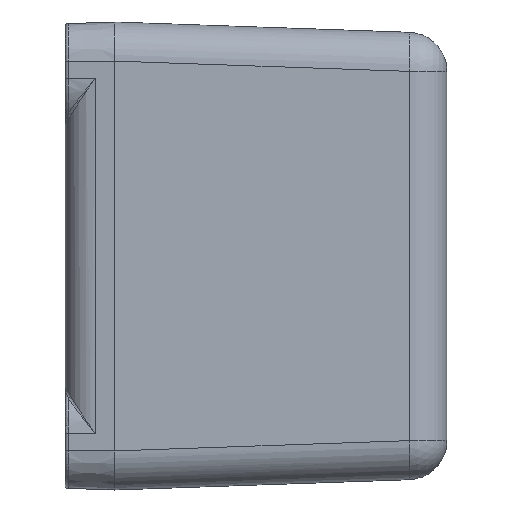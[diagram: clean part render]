
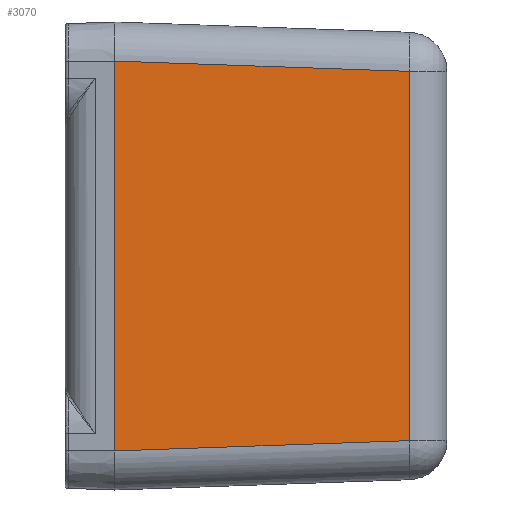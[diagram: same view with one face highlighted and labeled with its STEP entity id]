
A CAD part, left-side view. The second image highlights one B-rep face of the part: STEP entity #3070.
In plain terms, the highlighted planar face has unit normal (-0.999, -0.035, 0).
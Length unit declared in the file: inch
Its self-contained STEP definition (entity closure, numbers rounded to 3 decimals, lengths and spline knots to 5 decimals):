
#45 = DIRECTION ( 'NONE',  ( 0.035, -0.999, 0. ) ) ;
#217 = ORIENTED_EDGE ( 'NONE', *, *, #3178, .T. ) ;
#485 = VECTOR ( 'NONE', #2101, 39.37008 ) ;
#611 = DIRECTION ( 'NONE',  ( 0., 0., 1. ) ) ;
#792 = LINE ( 'NONE', #8518, #7972 ) ;
#831 = AXIS2_PLACEMENT_3D ( 'NONE', #7250, #5304, #45 ) ;
#1003 = LINE ( 'NONE', #5941, #485 ) ;
#1121 = DIRECTION ( 'NONE',  ( -0.035, 0.999, 0.035 ) ) ;
#1704 = CARTESIAN_POINT ( 'NONE',  ( -1.78013, -0.94136, -0.5902 ) ) ;
#1964 = EDGE_CURVE ( 'NONE', #2407, #3406, #5715, .T. ) ;
#2101 = DIRECTION ( 'NONE',  ( 0., 0., 1. ) ) ;
#2407 = VERTEX_POINT ( 'NONE', #6377 ) ;
#2569 = DIRECTION ( 'NONE',  ( 0.035, -0.999, 0.035 ) ) ;
#2619 = EDGE_CURVE ( 'NONE', #2407, #5531, #1003, .T. ) ;
#3046 = EDGE_CURVE ( 'NONE', #4250, #5531, #4168, .T. ) ;
#3070 = ADVANCED_FACE ( 'NONE', ( #4581 ), #3266, .T. ) ;
#3132 = ORIENTED_EDGE ( 'NONE', *, *, #1964, .T. ) ;
#3178 = EDGE_CURVE ( 'NONE', #3406, #4250, #792, .T. ) ;
#3266 = PLANE ( 'NONE',  #831 ) ;
#3406 = VERTEX_POINT ( 'NONE', #1704 ) ;
#4168 = LINE ( 'NONE', #5157, #6516 ) ;
#4250 = VERTEX_POINT ( 'NONE', #7201 ) ;
#4547 = ORIENTED_EDGE ( 'NONE', *, *, #3046, .T. ) ;
#4581 = FACE_OUTER_BOUND ( 'NONE', #6470, .T. ) ;
#5157 = CARTESIAN_POINT ( 'NONE',  ( -1.81133, -0.04776, 0.62141 ) ) ;
#5304 = DIRECTION ( 'NONE',  ( -0.999, -0.035, 0. ) ) ;
#5531 = VERTEX_POINT ( 'NONE', #5714 ) ;
#5714 = CARTESIAN_POINT ( 'NONE',  ( -1.813, 0., 0.62308 ) ) ;
#5715 = LINE ( 'NONE', #7789, #6729 ) ;
#5941 = CARTESIAN_POINT ( 'NONE',  ( -1.813, 0., -0.748 ) ) ;
#6377 = CARTESIAN_POINT ( 'NONE',  ( -1.813, 0., -0.62308 ) ) ;
#6470 = EDGE_LOOP ( 'NONE', ( #3132, #217, #4547, #7076 ) ) ;
#6516 = VECTOR ( 'NONE', #1121, 39.37008 ) ;
#6729 = VECTOR ( 'NONE', #2569, 39.37008 ) ;
#7076 = ORIENTED_EDGE ( 'NONE', *, *, #2619, .F. ) ;
#7201 = CARTESIAN_POINT ( 'NONE',  ( -1.78013, -0.94136, 0.5902 ) ) ;
#7250 = CARTESIAN_POINT ( 'NONE',  ( -1.813, 0., -0.748 ) ) ;
#7789 = CARTESIAN_POINT ( 'NONE',  ( -1.81315, 0.00435, -0.62323 ) ) ;
#7972 = VECTOR ( 'NONE', #611, 39.37008 ) ;
#8518 = CARTESIAN_POINT ( 'NONE',  ( -1.78013, -0.94136, -0.748 ) ) ;
